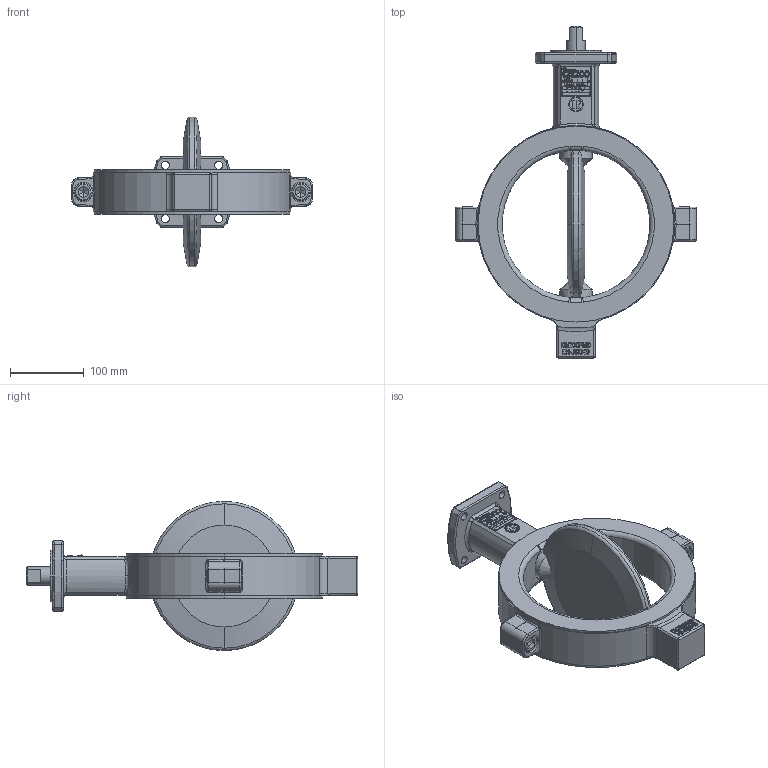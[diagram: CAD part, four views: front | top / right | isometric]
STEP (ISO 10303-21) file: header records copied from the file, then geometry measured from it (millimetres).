
FILE_DESCRIPTION((''),'2;1');
FILE_NAME('9520-00-5129_A_ASM','2014-04-29T',('SParmar1'),(''),'PRO/ENGINEER BY PARAMETRIC TECHNOLOGY CORPORATION, 2011040','PRO/ENGINEER BY PARAMETRIC TECHNOLOGY CORPORATION, 2011040','');
FILE_SCHEMA(('CONFIG_CONTROL_DESIGN'));
Products named in the file (5): 9527-17-7095; 9527-27-2107; 4111-51-1366; 4188_11_1060; 9520-00-5129_A_ASM
Assembly tree (5 placements, depth 2):
  9520-00-5129_A_ASM
    9527-17-7095
    9527-27-2107
    4111-51-1366  x2
    4188_11_1060
Bounding box: 326 x 449 x 202 mm (x, y, z)
Volume: 2507979.6 mm3; surface area: 384731.6 mm2
Topology: 5 solids, 5 shells, 3085 faces, 8555 edges, 5648 vertices
Faces by surface type: plane 2793, cylinder 156, bspline 64, torus 30, cone 26, extrusion 8, sphere 8
Entity records: 99097 total; most frequent: CARTESIAN_POINT 20839, ORIENTED_EDGE 17014, DIRECTION 14641, EDGE_CURVE 8507, VECTOR 7905, LINE 7897, VERTEX_POINT 5623, AXIS2_PLACEMENT_3D 3368
